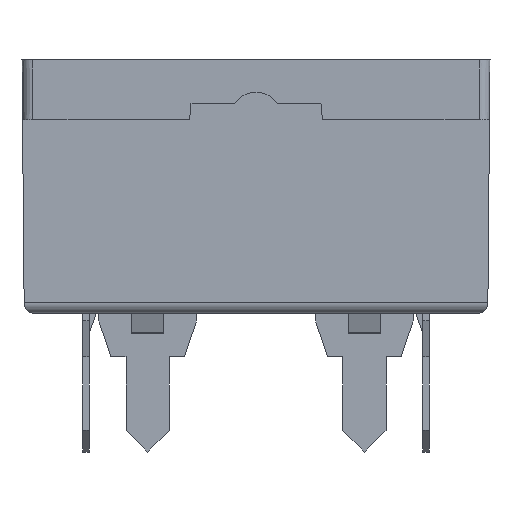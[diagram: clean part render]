
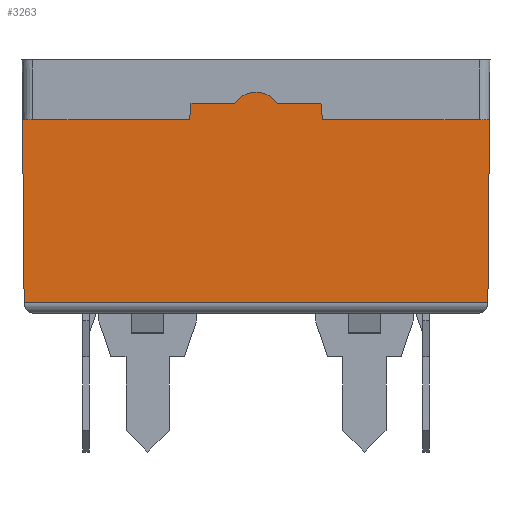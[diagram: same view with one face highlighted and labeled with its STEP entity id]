
A CAD part, left-side view. The second image highlights one B-rep face of the part: STEP entity #3263.
In plain terms, the highlighted planar face has unit normal (-1, 0, -0.009).
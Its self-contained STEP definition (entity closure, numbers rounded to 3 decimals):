
#2952=ELLIPSE('',#10516,1.25,1.25);
#3263=ADVANCED_FACE('',(#3955),#3612,.T.);
#3612=PLANE('',#10569);
#3955=FACE_OUTER_BOUND('',#4342,.T.);
#4342=EDGE_LOOP('',(#5628,#5629,#5630,#5631,#5632,#5633,#5634,#5635,#5636,
#5637,#5638,#5639,#5640,#5641,#5642,#5643));
#5628=ORIENTED_EDGE('',*,*,#7999,.F.);
#5629=ORIENTED_EDGE('',*,*,#7999,.T.);
#5630=ORIENTED_EDGE('',*,*,#7834,.F.);
#5631=ORIENTED_EDGE('',*,*,#7832,.T.);
#5632=ORIENTED_EDGE('',*,*,#7830,.T.);
#5633=ORIENTED_EDGE('',*,*,#7828,.F.);
#5634=ORIENTED_EDGE('',*,*,#7826,.T.);
#5635=ORIENTED_EDGE('',*,*,#7824,.T.);
#5636=ORIENTED_EDGE('',*,*,#7822,.F.);
#5637=ORIENTED_EDGE('',*,*,#8000,.T.);
#5638=ORIENTED_EDGE('',*,*,#8000,.F.);
#5639=ORIENTED_EDGE('',*,*,#7821,.F.);
#5640=ORIENTED_EDGE('',*,*,#8001,.T.);
#5641=ORIENTED_EDGE('',*,*,#8002,.T.);
#5642=ORIENTED_EDGE('',*,*,#8003,.T.);
#5643=ORIENTED_EDGE('',*,*,#7835,.F.);
#6995=VERTEX_POINT('',#13766);
#6996=VERTEX_POINT('',#13768);
#6997=VERTEX_POINT('',#13770);
#6998=VERTEX_POINT('',#13774);
#6999=VERTEX_POINT('',#13778);
#7000=VERTEX_POINT('',#13782);
#7001=VERTEX_POINT('',#13786);
#7002=VERTEX_POINT('',#13790);
#7003=VERTEX_POINT('',#13794);
#7004=VERTEX_POINT('',#13796);
#7117=VERTEX_POINT('',#14121);
#7118=VERTEX_POINT('',#14123);
#7119=VERTEX_POINT('',#14125);
#7120=VERTEX_POINT('',#14127);
#7821=EDGE_CURVE('',#6995,#6996,#8814,.T.);
#7822=EDGE_CURVE('',#6996,#6997,#8815,.T.);
#7824=EDGE_CURVE('',#6998,#6997,#8817,.T.);
#7826=EDGE_CURVE('',#6999,#6998,#8819,.T.);
#7828=EDGE_CURVE('',#6999,#7000,#2952,.T.);
#7830=EDGE_CURVE('',#7001,#7000,#8822,.T.);
#7832=EDGE_CURVE('',#7002,#7001,#8824,.T.);
#7834=EDGE_CURVE('',#7002,#7003,#8826,.T.);
#7835=EDGE_CURVE('',#7003,#7004,#8827,.T.);
#7999=EDGE_CURVE('',#7117,#7003,#8990,.T.);
#8000=EDGE_CURVE('',#6996,#7118,#8991,.T.);
#8001=EDGE_CURVE('',#6995,#7119,#8992,.T.);
#8002=EDGE_CURVE('',#7119,#7120,#8993,.T.);
#8003=EDGE_CURVE('',#7120,#7004,#8994,.T.);
#8814=LINE('',#13767,#9735);
#8815=LINE('',#13769,#9736);
#8817=LINE('',#13773,#9738);
#8819=LINE('',#13777,#9740);
#8822=LINE('',#13785,#9743);
#8824=LINE('',#13789,#9745);
#8826=LINE('',#13793,#9747);
#8827=LINE('',#13795,#9748);
#8990=LINE('',#14120,#9911);
#8991=LINE('',#14122,#9912);
#8992=LINE('',#14124,#9913);
#8993=LINE('',#14126,#9914);
#8994=LINE('',#14128,#9915);
#9735=VECTOR('',#11579,1.);
#9736=VECTOR('',#11580,1.);
#9738=VECTOR('',#11584,1.);
#9740=VECTOR('',#11588,1.);
#9743=VECTOR('',#11597,1.);
#9745=VECTOR('',#11601,1.);
#9747=VECTOR('',#11605,1.);
#9748=VECTOR('',#11606,1.);
#9911=VECTOR('',#11867,1.);
#9912=VECTOR('',#11868,1.);
#9913=VECTOR('',#11869,1.);
#9914=VECTOR('',#11870,1.);
#9915=VECTOR('',#11871,1.);
#10516=AXIS2_PLACEMENT_3D('',#13781,#11592,#11593);
#10569=AXIS2_PLACEMENT_3D('',#14129,#11872,#11873);
#11579=DIRECTION('',(0.,-1.,0.));
#11580=DIRECTION('',(0.,-1.,0.));
#11584=DIRECTION('',(0.009,0.087,-0.996));
#11588=DIRECTION('',(0.,1.,0.));
#11592=DIRECTION('',(1.,0.,0.009));
#11593=DIRECTION('',(0.009,0.,-1.));
#11597=DIRECTION('',(0.,1.,0.));
#11601=DIRECTION('',(-0.009,0.087,0.996));
#11605=DIRECTION('',(0.,-1.,0.));
#11606=DIRECTION('',(0.,-1.,0.));
#11867=DIRECTION('',(-0.009,0.,1.));
#11868=DIRECTION('',(0.009,0.,-1.));
#11869=DIRECTION('',(0.009,-0.009,-1.));
#11870=DIRECTION('',(0.,-1.,0.));
#11871=DIRECTION('',(-0.009,-0.009,1.));
#11872=DIRECTION('',(-1.,0.,-0.009));
#11873=DIRECTION('',(-0.009,0.,1.));
#13766=CARTESIAN_POINT('',(1.624,21.576,8.95));
#13767=CARTESIAN_POINT('',(1.624,17.7,8.95));
#13768=CARTESIAN_POINT('',(1.624,21.25,8.95));
#13769=CARTESIAN_POINT('',(1.624,10.8,8.95));
#13770=CARTESIAN_POINT('',(1.624,13.866,8.95));
#13773=CARTESIAN_POINT('',(1.598,13.604,11.945));
#13774=CARTESIAN_POINT('',(1.617,13.8,9.7));
#13777=CARTESIAN_POINT('',(1.617,7.8,9.7));
#13778=CARTESIAN_POINT('',(1.617,11.8,9.7));
#13781=CARTESIAN_POINT('',(1.624,10.8,8.95));
#13782=CARTESIAN_POINT('',(1.617,9.8,9.7));
#13785=CARTESIAN_POINT('',(1.617,7.8,9.7));
#13786=CARTESIAN_POINT('',(1.617,7.8,9.7));
#13789=CARTESIAN_POINT('',(1.598,7.996,11.945));
#13790=CARTESIAN_POINT('',(1.624,7.734,8.95));
#13793=CARTESIAN_POINT('',(1.624,10.8,8.95));
#13794=CARTESIAN_POINT('',(1.624,0.35,8.95));
#13795=CARTESIAN_POINT('',(1.624,17.7,8.95));
#13796=CARTESIAN_POINT('',(1.624,0.024,8.95));
#14120=CARTESIAN_POINT('',(1.6,0.35,11.7));
#14121=CARTESIAN_POINT('',(1.689,0.35,1.501));
#14122=CARTESIAN_POINT('',(1.6,21.25,11.7));
#14123=CARTESIAN_POINT('',(1.689,21.25,1.501));
#14124=CARTESIAN_POINT('',(1.601,21.599,11.606));
#14125=CARTESIAN_POINT('',(1.698,21.502,0.496));
#14126=CARTESIAN_POINT('',(1.698,0.102,0.496));
#14127=CARTESIAN_POINT('',(1.698,0.098,0.496));
#14128=CARTESIAN_POINT('',(1.601,0.001,11.606));
#14129=CARTESIAN_POINT('',(1.6,10.8,11.7));
